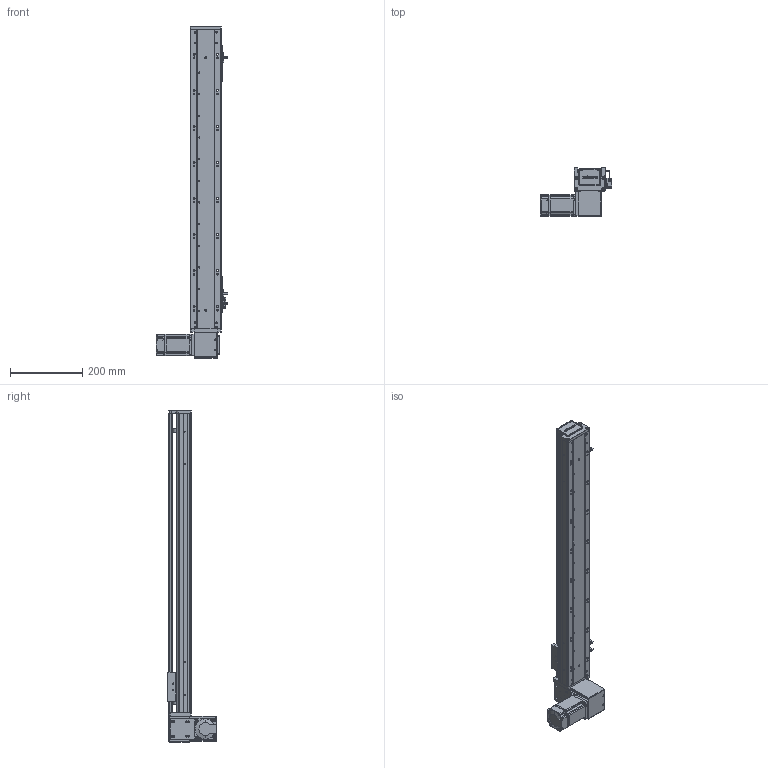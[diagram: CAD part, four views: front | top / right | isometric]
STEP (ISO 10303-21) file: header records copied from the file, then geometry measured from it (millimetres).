
FILE_DESCRIPTION (( 'STEP AP203' ), '1' );
FILE_NAME ('RY80-T-300-DL.SLDASM_650.step', '2021-03-01T01:38:02', ( '盈信电脑' ), ( '东莞市道滘镇水果街19号' ), 'SwSTEP 2.0', 'SolidWorks 2012', '' );
FILE_SCHEMA (( 'CONFIG_CONTROL_DESIGN' ));
Products named in the file (19): RY80-T-上下折同步轮盖板; RY80-T-300-DL.SLDASM_650; RY100-T粣創揤踡裔; 1; RY80-T-M4蹟翐3; 滅袉蝶18-10; RY80-T肮祭謫狟殏俋欶; RY80-T肮祭湍揤輸1; RY80-T肮祭湍揤輸2; RY80-T翋肮祭謫裔啣; RY80-T萇儂假蚾啣; RY80俋离覜茼え; 672嫖萇羲壽假蚾釱; 覜茼ん672; RY80-T-翋肮祭謫釱; RY80-T肮祭謫臏賑輸; RY80-T-300-DL倰第奻裔啣_650; RY80-T綴裔啣; RY80-T-300-DL倰第菁釱_650
Assembly tree (24 placements, depth 2):
  RY80-T-300-DL.SLDASM_650
    RY80-T-300-DL倰第菁釱_650
    RY80-T肮祭謫臏賑輸
    RY80-T-300-DL倰第奻裔啣_650
    RY80-T綴裔啣
    672嫖萇羲壽假蚾釱  x2
    覜茼ん672  x3
    RY80俋离覜茼え
    RY80-T-翋肮祭謫釱
    RY80-T肮祭湍揤輸1
    RY80-T肮祭湍揤輸2
    RY80-T萇儂假蚾啣
    RY80-T翋肮祭謫裔啣  x2
    滅袉蝶18-10  x2
    1
    RY80-T肮祭謫狟殏俋欶
    RY80-T-M4蹟翐3  x2
    RY80-T-上下折同步轮盖板
    RY100-T粣創揤踡裔
Bounding box: 198.7 x 134.5 x 920 mm (x, y, z)
Volume: 1730260 mm3; surface area: 720429 mm2
Topology: 24 solids, 24 shells, 2518 faces, 6946 edges, 4509 vertices
Faces by surface type: plane 1349, cylinder 963, cone 150, bspline 56
Entity records: 79451 total; most frequent: CARTESIAN_POINT 19528, ORIENTED_EDGE 12336, DIRECTION 11544, EDGE_CURVE 6168, VERTEX_POINT 4050, AXIS2_PLACEMENT_3D 3882, VECTOR 3780, LINE 3780
